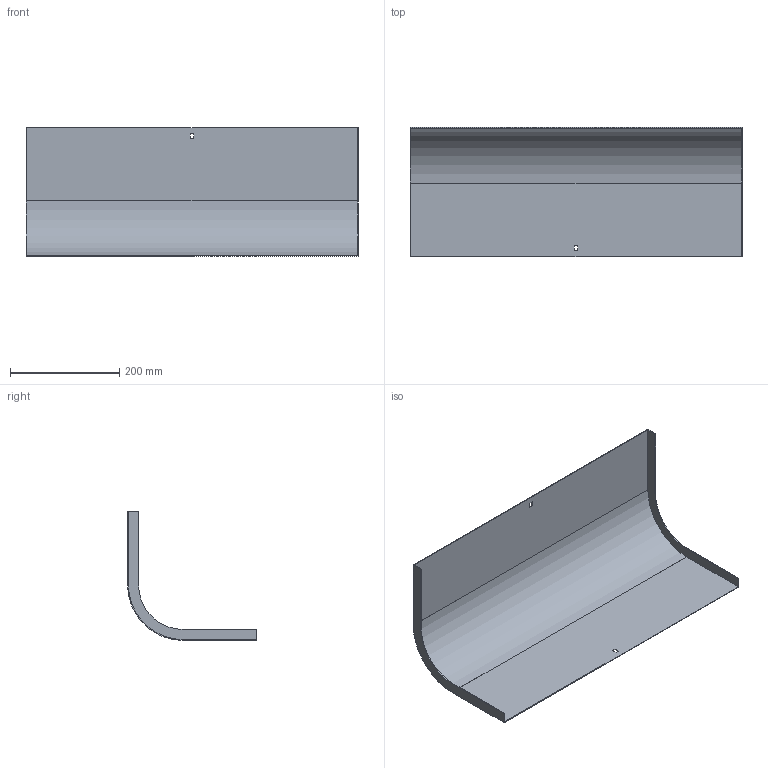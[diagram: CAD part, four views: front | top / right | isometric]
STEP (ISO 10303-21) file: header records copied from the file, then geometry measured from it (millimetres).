
FILE_DESCRIPTION (( 'STEP AP214' ), '1' );
FILE_NAME ('33G1D600.step', '2025-02-21T12:44:03', ( '' ), ( '' ), 'SwSTEP 2.0', 'SolidWorks 2023', '' );
FILE_SCHEMA (( 'AUTOMOTIVE_DESIGN' ));
Length unit declared in the file: millimetre
Products named in the file (1): 33G1D600
Bounding box: 607 x 235.5 x 235.5 mm (x, y, z)
Volume: 410717.7 mm3; surface area: 550840.2 mm2
Topology: 1 solids, 1 shells, 26 faces, 72 edges, 48 vertices
Faces by surface type: plane 22, cylinder 4
Entity records: 855 total; most frequent: CARTESIAN_POINT 147, ORIENTED_EDGE 144, DIRECTION 134, EDGE_CURVE 72, LINE 64, VECTOR 64, VERTEX_POINT 48, AXIS2_PLACEMENT_3D 35
